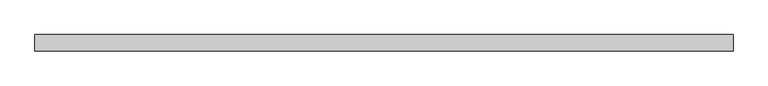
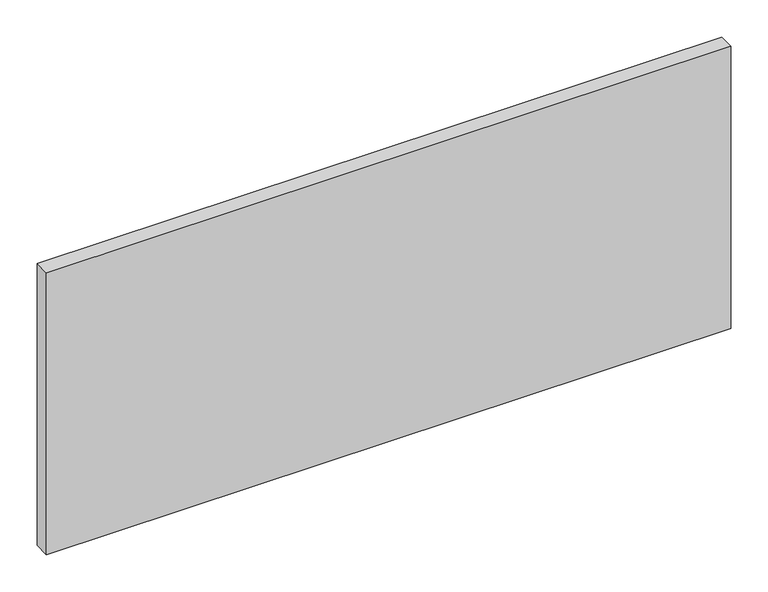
"""IFC4 building model written with IfcOpenShell, lengths in millimetres: plate geometry, Системная панель : С остеклением."""

from ifc_helpers import new_model, si_unit, origin, origin_with_axes, place, context, project, spatial, polyline, outline, extrude, source, transform, mapped, element, save


def plate_a56ebe65(model_context):
    return source(origin(), model_context, "Body", "SweptSolid", [
        extrude(outline(polyline([(531.3258605, 24.5), (-531.3258605, 24.5), (-531.3258605, 49.5), (531.3258605, 49.5), (531.3258605, 24.5)])), origin_with_axes(), (0.0, 0.0, 1.0), 463.2361077),
    ])


if __name__ == "__main__":
    model = new_model("IFC4")
    model_context = context("Model", 3, world=origin())
    ifc_project = project(units=[si_unit("LENGTHUNIT", "METRE", prefix="MILLI")], contexts=[model_context])
    site = spatial("IfcSite", under=ifc_project)
    building = spatial("IfcBuilding", under=site)
    placement = place(None, origin())
    plate_shape = plate_a56ebe65(model_context)
    element("IfcPlate", 1, ObjectType="Системная панель : С остеклением", at=placement, inside=building, context=model_context, shape_type="MappedRepresentation", body=[
        mapped(plate_shape, transform((0.0, 0.0, 0.0), x_axis=(1.0, 0.0, 0.0), y_axis=(0.0, 1.0, 0.0), z_axis=(0.0, 0.0, 1.0))),
    ])
    save(model, "model.ifc")
